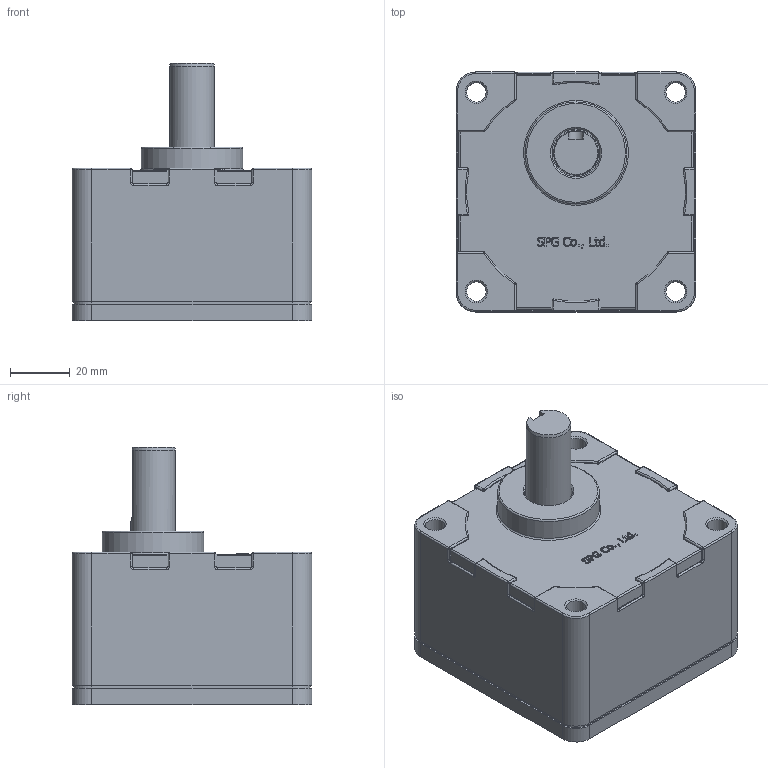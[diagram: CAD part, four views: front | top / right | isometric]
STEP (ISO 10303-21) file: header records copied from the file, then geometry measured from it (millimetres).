
FILE_DESCRIPTION((''),'2;1');
FILE_NAME('C:\Documents and Settings\Administrator\바탕 화면\BLDC 3D FILE\GEAR HEAD ASS''Y\60\XTG8200K.stp','2014-06-19T12:45:50',('kdhkdh'),(''),'Autodesk Inventor 2011','Autodesk Inventor 2011','');
FILE_SCHEMA(('AUTOMOTIVE_DESIGN { 1 0 10303 214 1 1 1 1 }'));
Length unit declared in the file: millimetre
Products named in the file (1): 부품6
Bounding box: 80 x 80 x 86 mm (x, y, z)
Volume: 313570.7 mm3; surface area: 37199 mm2
Topology: 1 solids, 1 shells, 449 faces, 1125 edges, 681 vertices
Faces by surface type: plane 152, cylinder 140, bspline 81, sphere 32, torus 30, cone 14
Full cylindrical faces by diameter (mm): 3 x2, 4 x4, 4.3 x4, 6.5 x8, 7.5 x1, 8 x4, 15 x1, 16 x1, 34 x1, 73 x1
Entity records: 13324 total; most frequent: CARTESIAN_POINT 3340, ORIENTED_EDGE 2072, DIRECTION 1941, EDGE_CURVE 1036, AXIS2_PLACEMENT_3D 704, VERTEX_POINT 666, EDGE_LOOP 534, VECTOR 533
